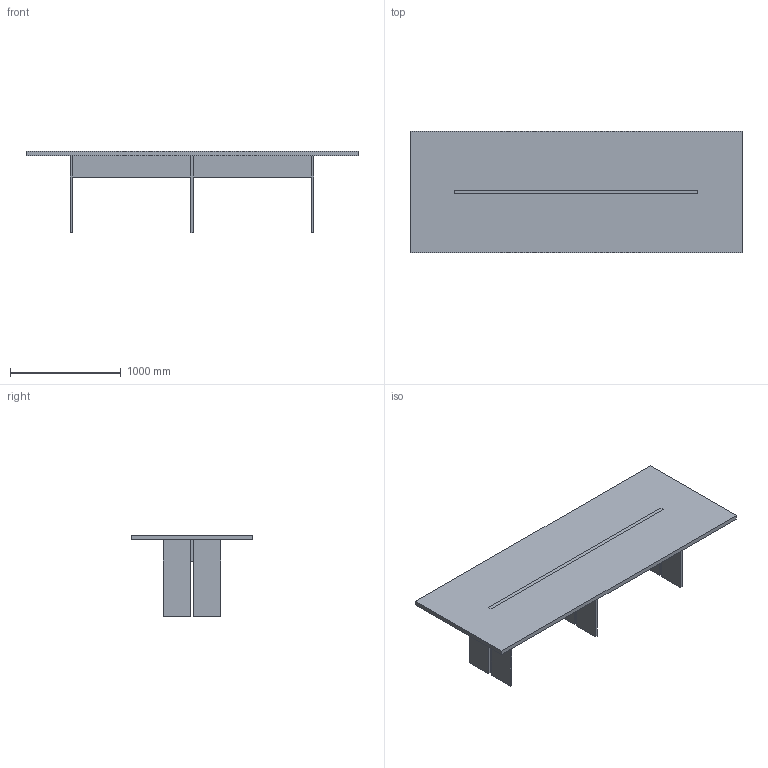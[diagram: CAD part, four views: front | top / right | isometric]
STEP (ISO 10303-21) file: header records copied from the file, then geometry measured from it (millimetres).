
FILE_DESCRIPTION(/* description */ (''),/* implementation_level */ '2;1');
FILE_NAME(/* name */ 'LLT_WOOD_300x110',/* time_stamp */ '2016-06-09T11:55:48+02:00',/* author */ (''),/* organization */ (''),/* preprocessor_version */ 'ST-DEVELOPER v10',/* originating_system */ '',/* authorisation */ '');
FILE_SCHEMA (('CONFIG_CONTROL_DESIGN'));
Length unit declared in the file: millimetre
Products named in the file (1): 1
Bounding box: 3000 x 1100 x 735 mm (x, y, z)
Volume: 164571735 mm3; surface area: 10430136 mm2
Topology: 8 solids, 8 shells, 52 faces, 108 edges, 72 vertices
Faces by surface type: plane 52
Entity records: 1284 total; most frequent: CARTESIAN_POINT 358, ORIENTED_EDGE 216, EDGE_CURVE 108, B_SPLINE_CURVE_WITH_KNOTS 108, VERTEX_POINT 72, DIRECTION 56, EDGE_LOOP 54, AXIS2_PLACEMENT_3D 54
